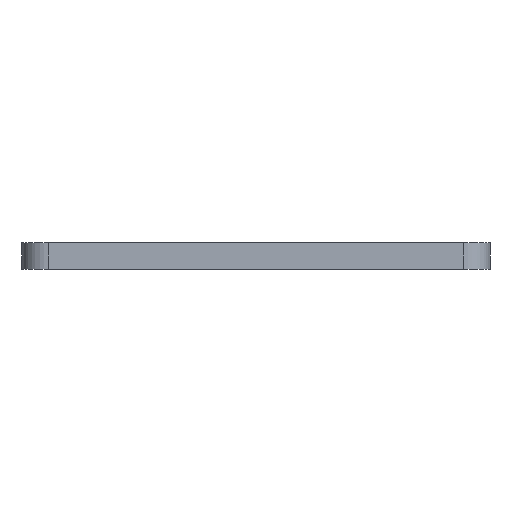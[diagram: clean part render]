
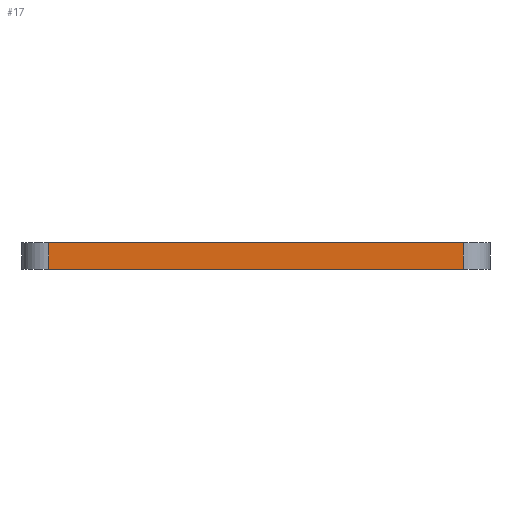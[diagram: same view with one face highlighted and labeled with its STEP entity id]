
A CAD part, left-side view. The second image highlights one B-rep face of the part: STEP entity #17.
In plain terms, the highlighted planar face has unit normal (-1, 0, 0).
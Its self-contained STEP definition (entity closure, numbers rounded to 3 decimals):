
#17 = ADVANCED_FACE('',(#18),#32,.F.);
#18 = FACE_BOUND('',#19,.F.);
#19 = EDGE_LOOP('',(#20,#55,#83,#111));
#20 = ORIENTED_EDGE('',*,*,#21,.F.);
#21 = EDGE_CURVE('',#22,#24,#26,.T.);
#22 = VERTEX_POINT('',#23);
#23 = CARTESIAN_POINT('',(-45.,-31.,4.));
#24 = VERTEX_POINT('',#25);
#25 = CARTESIAN_POINT('',(-45.,31.,4.));
#26 = SURFACE_CURVE('',#27,(#31,#43),.PCURVE_S1.);
#27 = LINE('',#28,#29);
#28 = CARTESIAN_POINT('',(-45.,-35.,4.));
#29 = VECTOR('',#30,1.);
#30 = DIRECTION('',(0.,1.,0.));
#31 = PCURVE('',#32,#37);
#32 = PLANE('',#33);
#33 = AXIS2_PLACEMENT_3D('',#34,#35,#36);
#34 = CARTESIAN_POINT('',(-45.,-35.,0.));
#35 = DIRECTION('',(1.,0.,0.));
#36 = DIRECTION('',(0.,0.,1.));
#37 = DEFINITIONAL_REPRESENTATION('',(#38),#42);
#38 = LINE('',#39,#40);
#39 = CARTESIAN_POINT('',(4.,0.));
#40 = VECTOR('',#41,1.);
#41 = DIRECTION('',(0.,-1.));
#42 = ( GEOMETRIC_REPRESENTATION_CONTEXT(2) 
PARAMETRIC_REPRESENTATION_CONTEXT() REPRESENTATION_CONTEXT('2D SPACE',''
  ) );
#43 = PCURVE('',#44,#49);
#44 = PLANE('',#45);
#45 = AXIS2_PLACEMENT_3D('',#46,#47,#48);
#46 = CARTESIAN_POINT('',(-45.,-35.,4.));
#47 = DIRECTION('',(0.,0.,1.));
#48 = DIRECTION('',(1.,0.,0.));
#49 = DEFINITIONAL_REPRESENTATION('',(#50),#54);
#50 = LINE('',#51,#52);
#51 = CARTESIAN_POINT('',(0.,0.));
#52 = VECTOR('',#53,1.);
#53 = DIRECTION('',(0.,1.));
#54 = ( GEOMETRIC_REPRESENTATION_CONTEXT(2) 
PARAMETRIC_REPRESENTATION_CONTEXT() REPRESENTATION_CONTEXT('2D SPACE',''
  ) );
#55 = ORIENTED_EDGE('',*,*,#56,.F.);
#56 = EDGE_CURVE('',#57,#22,#59,.T.);
#57 = VERTEX_POINT('',#58);
#58 = CARTESIAN_POINT('',(-45.,-31.,0.));
#59 = SURFACE_CURVE('',#60,(#64,#71),.PCURVE_S1.);
#60 = LINE('',#61,#62);
#61 = CARTESIAN_POINT('',(-45.,-31.,0.));
#62 = VECTOR('',#63,1.);
#63 = DIRECTION('',(0.,0.,1.));
#64 = PCURVE('',#32,#65);
#65 = DEFINITIONAL_REPRESENTATION('',(#66),#70);
#66 = LINE('',#67,#68);
#67 = CARTESIAN_POINT('',(0.,-4.));
#68 = VECTOR('',#69,1.);
#69 = DIRECTION('',(1.,0.));
#70 = ( GEOMETRIC_REPRESENTATION_CONTEXT(2) 
PARAMETRIC_REPRESENTATION_CONTEXT() REPRESENTATION_CONTEXT('2D SPACE',''
  ) );
#71 = PCURVE('',#72,#77);
#72 = CYLINDRICAL_SURFACE('',#73,4.);
#73 = AXIS2_PLACEMENT_3D('',#74,#75,#76);
#74 = CARTESIAN_POINT('',(-41.,-31.,0.));
#75 = DIRECTION('',(0.,0.,1.));
#76 = DIRECTION('',(-1.,-0.,0.));
#77 = DEFINITIONAL_REPRESENTATION('',(#78),#82);
#78 = LINE('',#79,#80);
#79 = CARTESIAN_POINT('',(0.,0.));
#80 = VECTOR('',#81,1.);
#81 = DIRECTION('',(0.,1.));
#82 = ( GEOMETRIC_REPRESENTATION_CONTEXT(2) 
PARAMETRIC_REPRESENTATION_CONTEXT() REPRESENTATION_CONTEXT('2D SPACE',''
  ) );
#83 = ORIENTED_EDGE('',*,*,#84,.T.);
#84 = EDGE_CURVE('',#57,#85,#87,.T.);
#85 = VERTEX_POINT('',#86);
#86 = CARTESIAN_POINT('',(-45.,31.,0.));
#87 = SURFACE_CURVE('',#88,(#92,#99),.PCURVE_S1.);
#88 = LINE('',#89,#90);
#89 = CARTESIAN_POINT('',(-45.,-35.,0.));
#90 = VECTOR('',#91,1.);
#91 = DIRECTION('',(0.,1.,0.));
#92 = PCURVE('',#32,#93);
#93 = DEFINITIONAL_REPRESENTATION('',(#94),#98);
#94 = LINE('',#95,#96);
#95 = CARTESIAN_POINT('',(0.,0.));
#96 = VECTOR('',#97,1.);
#97 = DIRECTION('',(0.,-1.));
#98 = ( GEOMETRIC_REPRESENTATION_CONTEXT(2) 
PARAMETRIC_REPRESENTATION_CONTEXT() REPRESENTATION_CONTEXT('2D SPACE',''
  ) );
#99 = PCURVE('',#100,#105);
#100 = PLANE('',#101);
#101 = AXIS2_PLACEMENT_3D('',#102,#103,#104);
#102 = CARTESIAN_POINT('',(-45.,-35.,0.));
#103 = DIRECTION('',(0.,0.,1.));
#104 = DIRECTION('',(1.,0.,0.));
#105 = DEFINITIONAL_REPRESENTATION('',(#106),#110);
#106 = LINE('',#107,#108);
#107 = CARTESIAN_POINT('',(0.,0.));
#108 = VECTOR('',#109,1.);
#109 = DIRECTION('',(0.,1.));
#110 = ( GEOMETRIC_REPRESENTATION_CONTEXT(2) 
PARAMETRIC_REPRESENTATION_CONTEXT() REPRESENTATION_CONTEXT('2D SPACE',''
  ) );
#111 = ORIENTED_EDGE('',*,*,#112,.T.);
#112 = EDGE_CURVE('',#85,#24,#113,.T.);
#113 = SURFACE_CURVE('',#114,(#118,#125),.PCURVE_S1.);
#114 = LINE('',#115,#116);
#115 = CARTESIAN_POINT('',(-45.,31.,0.));
#116 = VECTOR('',#117,1.);
#117 = DIRECTION('',(0.,0.,1.));
#118 = PCURVE('',#32,#119);
#119 = DEFINITIONAL_REPRESENTATION('',(#120),#124);
#120 = LINE('',#121,#122);
#121 = CARTESIAN_POINT('',(0.,-66.));
#122 = VECTOR('',#123,1.);
#123 = DIRECTION('',(1.,0.));
#124 = ( GEOMETRIC_REPRESENTATION_CONTEXT(2) 
PARAMETRIC_REPRESENTATION_CONTEXT() REPRESENTATION_CONTEXT('2D SPACE',''
  ) );
#125 = PCURVE('',#126,#131);
#126 = CYLINDRICAL_SURFACE('',#127,4.);
#127 = AXIS2_PLACEMENT_3D('',#128,#129,#130);
#128 = CARTESIAN_POINT('',(-41.,31.,0.));
#129 = DIRECTION('',(0.,0.,1.));
#130 = DIRECTION('',(-1.,-0.,0.));
#131 = DEFINITIONAL_REPRESENTATION('',(#132),#136);
#132 = LINE('',#133,#134);
#133 = CARTESIAN_POINT('',(-0.,0.));
#134 = VECTOR('',#135,1.);
#135 = DIRECTION('',(-0.,1.));
#136 = ( GEOMETRIC_REPRESENTATION_CONTEXT(2) 
PARAMETRIC_REPRESENTATION_CONTEXT() REPRESENTATION_CONTEXT('2D SPACE',''
  ) );
